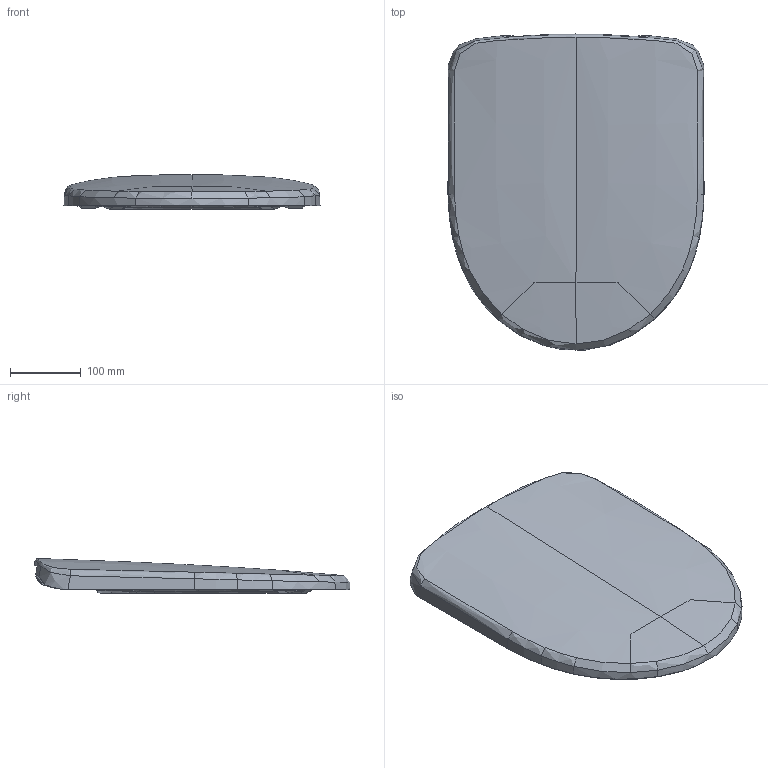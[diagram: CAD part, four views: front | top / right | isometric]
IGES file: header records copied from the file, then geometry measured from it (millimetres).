
Global section: file name: 500333; native system: Autodesk Inventor 2018; preprocessor: unknown; author: JANAN; date: 20200428.101549; units: millimetre
Bounding box: 362.44 x 447.23 x 49.38 mm (x, y, z)
Volume: 1419185.1 mm3; surface area: 538488.4 mm2
Topology: 2 solids, 2 shells, 481 faces, 1206 edges, 711 vertices
Faces by surface type: bspline 481
